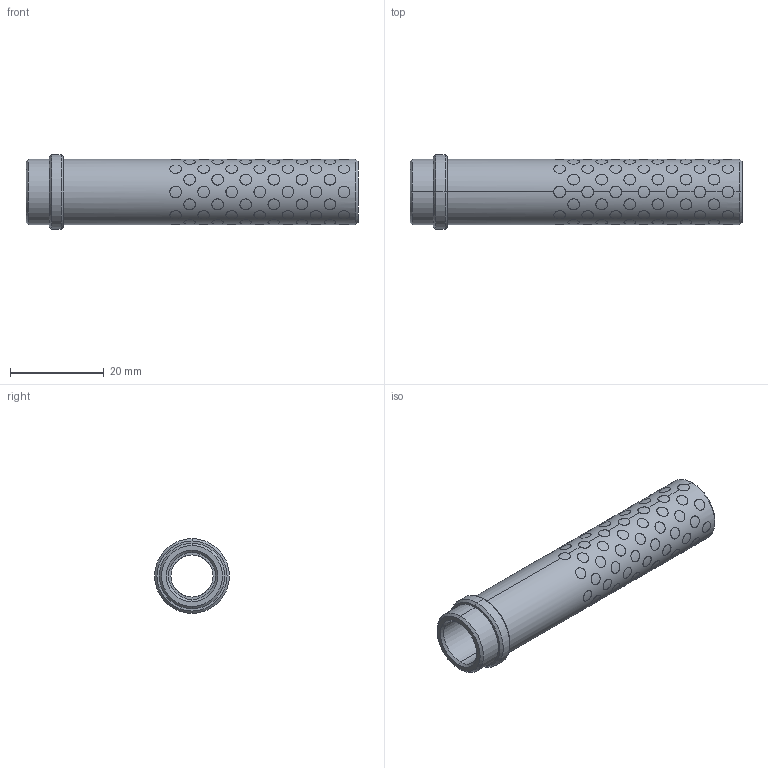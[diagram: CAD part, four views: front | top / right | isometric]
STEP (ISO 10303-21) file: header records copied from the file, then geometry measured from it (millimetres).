
FILE_DESCRIPTION((''),'2;1');
FILE_NAME('G31214066','2018-01-25T',('MANU'),(''),'PRO/ENGINEER BY PARAMETRIC TECHNOLOGY CORPORATION, 2012130','PRO/ENGINEER BY PARAMETRIC TECHNOLOGY CORPORATION, 2012130','');
FILE_SCHEMA(('CONFIG_CONTROL_DESIGN'));
Length unit declared in the file: millimetre
Products named in the file (1): G31214066
Bounding box: 71 x 16 x 16 mm (x, y, z)
Volume: 6075.2 mm3; surface area: 9552.9 mm2
Topology: 105 solids, 105 shells, 651 faces, 1386 edges, 920 vertices
Faces by surface type: cylinder 634, cone 12, plane 5
Entity records: 29642 total; most frequent: CARTESIAN_POINT 16969, ORIENTED_EDGE 2772, DIRECTION 1832, EDGE_CURVE 1386, VERTEX_POINT 920, B_SPLINE_CURVE_WITH_KNOTS 888, EDGE_LOOP 836, AXIS2_PLACEMENT_3D 683
